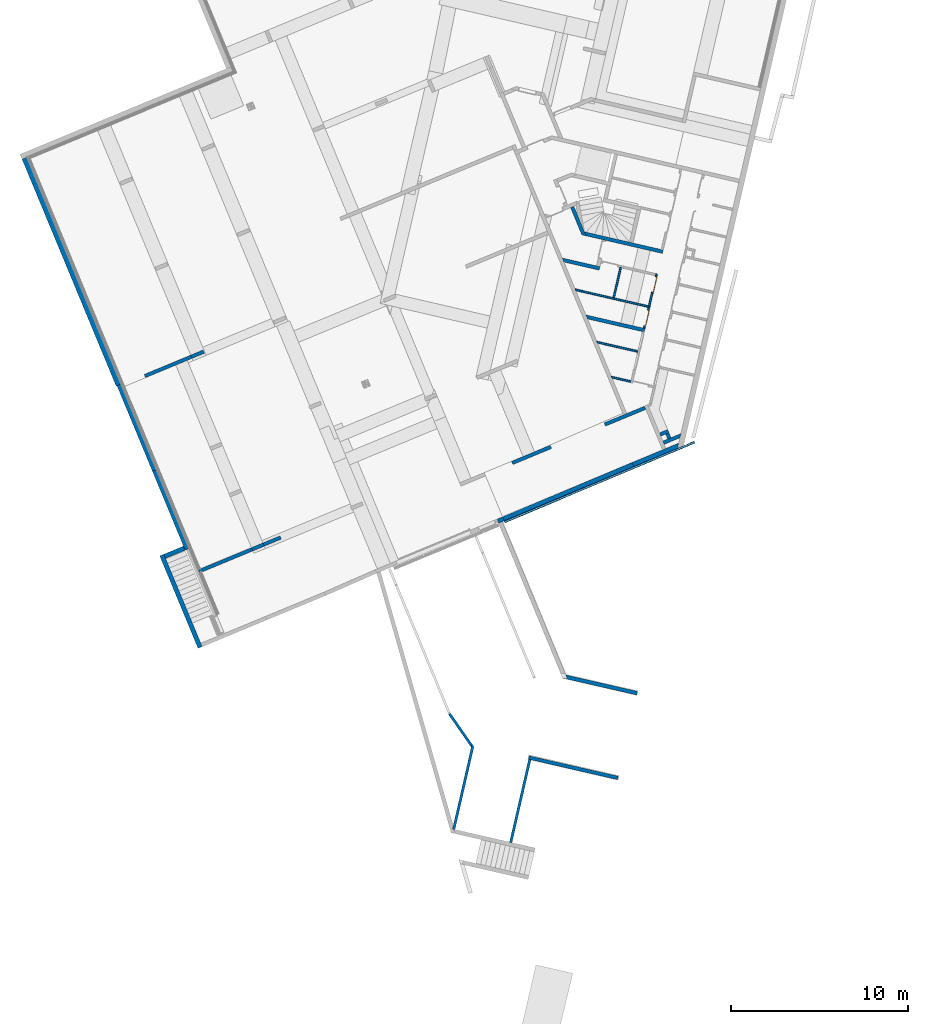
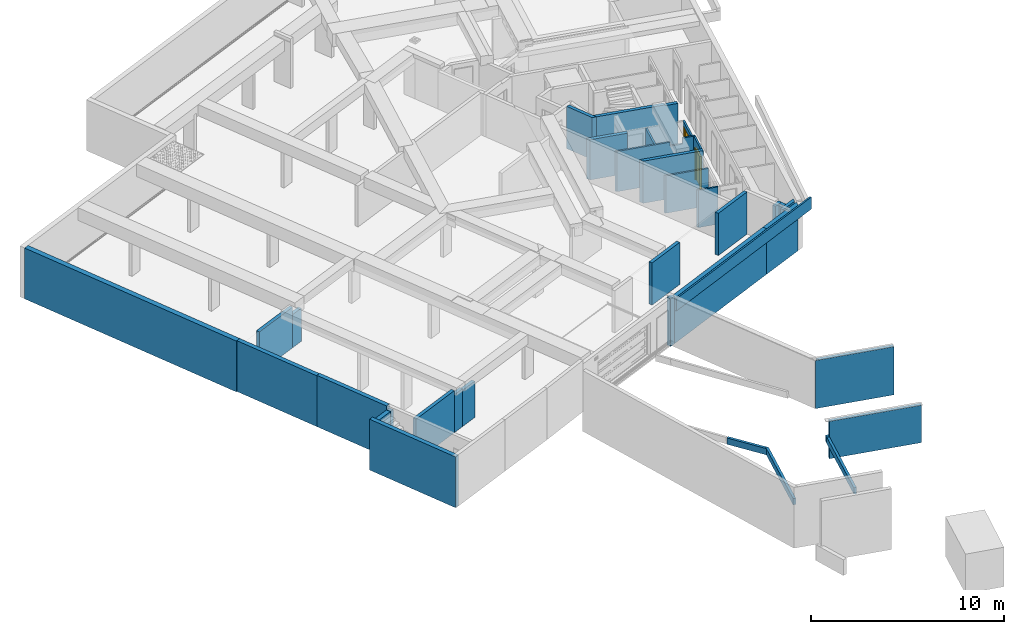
# One storey, part 2 of 20: 34 walls, 2 doors, 2 openings.
"""IFC2X3 building model written with IfcOpenShell, lengths in metres."""

from ifc_helpers import new_model, entity, si_unit, converted_unit, derived_unit, money_unit, direction, frame, origin_with_axes, place, context, subcontext, project, spatial, faceted_brep, source, transform, mapped, material, material_list, type_object, element, fill, save


model = new_model("IFC2X3")

# Units and contexts
model_context = context("Model", 3, precision=1e-05, world=origin_with_axes(), true_north=direction((0.0, 1.0)))
body_context = subcontext(model_context, "Body", "Model", "MODEL_VIEW")
ifc_project = project(units=[si_unit("LENGTHUNIT", "METRE"), si_unit("AREAUNIT", "SQUARE_METRE"), si_unit("VOLUMEUNIT", "CUBIC_METRE"), converted_unit("PLANEANGLEUNIT", "DEGREE", entity("IfcPlaneAngleMeasure", 0.0174532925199), si_unit("PLANEANGLEUNIT", "RADIAN"), dimensions=[0, 0, 0, 0, 0, 0, 0]), si_unit("SOLIDANGLEUNIT", "STERADIAN"), money_unit("EUR"), converted_unit("TIMEUNIT", "Year", entity("IfcTimeMeasure", 31556926.0), si_unit("TIMEUNIT", "SECOND"), dimensions=[0, 0, 1, 0, 0, 0, 0]), si_unit("MASSUNIT", "GRAM", prefix="KILO"), si_unit("THERMODYNAMICTEMPERATUREUNIT", "DEGREE_CELSIUS"), si_unit("LUMINOUSINTENSITYUNIT", "LUMEN"), si_unit("ENERGYUNIT", "JOULE", prefix="MEGA"), derived_unit("THERMALCONDUCTANCEUNIT", [(si_unit("POWERUNIT", "WATT"), 1), (si_unit("LENGTHUNIT", "METRE"), -1), (si_unit("THERMODYNAMICTEMPERATUREUNIT", "KELVIN"), -1)]), derived_unit("SPECIFICHEATCAPACITYUNIT", [(si_unit("ENERGYUNIT", "JOULE"), 1), (si_unit("MASSUNIT", "GRAM", prefix="KILO"), -1), (si_unit("THERMODYNAMICTEMPERATUREUNIT", "KELVIN"), -1)]), derived_unit("MASSDENSITYUNIT", [(si_unit("MASSUNIT", "GRAM", prefix="KILO"), 1), (si_unit("VOLUMEUNIT", "CUBIC_METRE"), -1)])], contexts=[model_context])

# Site, building, storey
site_placement = place(None, origin_with_axes())
site = spatial("IfcSite", under=ifc_project, at=site_placement, Name="Site", CompositionType="ELEMENT")
building_placement = place(site_placement, origin_with_axes())
building = spatial("IfcBuilding", under=site, at=building_placement, Name="Bâtiment", CompositionType="ELEMENT")
storey_placement = place(building_placement, frame((0.0, 0.0, -2.9), z_axis=(0.0, 0.0, 1.0), x_axis=(1.0, 0.0, 0.0)))
storey = spatial("IfcBuildingStorey", under=building, at=storey_placement, Name="Sous-sol", CompositionType="ELEMENT", Elevation=-2.9)

# Walls
ifc_material_1 = material(Name="Béton")
wall_type_1 = type_object("IfcWallType", Name="Béton 200", PredefinedType="USERDEFINED")
wall_1_placement = place(storey_placement, frame((-4.6499765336, -10.2752518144, 0.0), z_axis=(0.0, 0.0, 1.0), x_axis=(-0.974387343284, 0.224876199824, 0.0)))
element("IfcWall", 1, at=wall_1_placement, inside=storey, type_object=wall_type_1, material=ifc_material_1, Name="M_Ext-007", ObjectType="SOLIDWALL", context=body_context, shape_type="Brep", body=[
    faceted_brep([(4.54976726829, 0.0, 0.0), (4.54976726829, 0.0, 2.67), (0.699999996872, -1.10096642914e-09, 2.67), (0.699999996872, -1.10096642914e-09, 2.62), (0.0, 0.0, 2.62), (3.12709413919e-10, 0.0, 2.37), (3.12709858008e-10, 0.0, 0.0), (4.40699163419, 0.2, 2.67), (4.40699163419, 0.2, 0.0), (0.700101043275, 0.199992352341, 2.67), (0.700101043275, 0.199992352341, 2.62), (0.0, 0.199993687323, 2.62), (2.27683205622e-10, 0.2, 2.37), (2.27683205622e-10, 0.2, 0.0)], [[[0, 1, 2, 3, 4, 5, 6]], [[7, 1, 0, 8]], [[1, 7, 9, 2]], [[9, 10, 3, 2]], [[3, 10, 11, 4]], [[12, 5, 4, 11]], [[12, 13, 6, 5]], [[8, 0, 6, 13]], [[12, 11, 10, 9, 7, 8, 13]]]),
])
wall_2_placement = place(storey_placement, frame((-5.67255689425, -14.7060869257, 0.0), z_axis=(0.0, 0.0, 1.0), x_axis=(-0.974387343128, 0.224876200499, 0.0)))
element("IfcWall", 2, at=wall_2_placement, inside=storey, type_object=wall_type_1, material=ifc_material_1, Name="M_Ext-007", ObjectType="SOLIDWALL", context=body_context, shape_type="Brep", body=[
    faceted_brep([(-1.4657537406e-09, 0.2, 2.37), (-1.23905374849e-09, 0.0, 2.37), (-1.23905197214e-09, 0.0, 2.67), (-1.46575018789e-09, 0.2, 2.67), (-1.23905374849e-09, 0.0, 0.0), (-1.4657537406e-09, 0.2, 0.0), (3.41685330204, 0.0, 0.0), (3.41685330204, 0.0, 2.67), (3.27407766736, 0.2, 2.67), (3.27407766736, 0.2, 0.0)], [[[0, 1, 2, 3]], [[4, 1, 0, 5]], [[4, 6, 7, 2, 1]], [[3, 2, 7, 8]], [[0, 3, 8, 9, 5]], [[4, 5, 9, 6]], [[6, 9, 8, 7]]]),
])
wall_3_placement = place(storey_placement, frame((-5.51181280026, -19.0058905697, 0.0), z_axis=(0.0, 0.0, 1.0), x_axis=(-0.923701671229, -0.383112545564, 0.0)))
element("IfcWall", 3, at=wall_3_placement, inside=storey, type_object=wall_type_1, material=ifc_material_1, Name="M_Ext-007", ObjectType="SOLIDWALL", context=body_context, shape_type="Brep", body=[
    faceted_brep([(0.2, 0.0, 0.0), (0.2, 0.2, 0.0), (2.66188284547, 0.2, 0.0), (2.66188284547, 0.0, 0.0), (0.2, 0.0, 2.67), (0.2, 0.2, 2.67), (2.66188284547, 0.2, 2.67), (2.66188284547, 0.0, 2.67)], [[[0, 1, 2, 3]], [[4, 5, 1, 0]], [[1, 5, 6, 2]], [[7, 3, 2, 6]], [[4, 0, 3, 7]], [[5, 4, 7, 6]]]),
])
wall_4_placement = place(storey_placement, frame((-9.08321217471, -9.25211744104, 0.0), z_axis=(0.0, 0.0, 1.0), x_axis=(-0.383112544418, 0.923701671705, 0.0)))
element("IfcWall", 4, at=wall_4_placement, inside=storey, type_object=wall_type_1, material=ifc_material_1, Name="M_Ext-007", ObjectType="SOLIDWALL", context=body_context, shape_type="Brep", body=[
    faceted_brep([(-0.245733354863, 0.0, 0.0), (-0.102957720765, 0.2, 0.0), (1.55978390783, 0.2, 0.0), (1.55978390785, 0.0, 0.0), (-0.245733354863, 0.0, 2.67), (-0.102957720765, 0.2, 2.67), (1.55978390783, 0.2, 2.67), (1.55978390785, 0.0, 2.67)], [[[0, 1, 2, 3]], [[0, 4, 5, 1]], [[1, 5, 6, 2]], [[6, 7, 3, 2]], [[4, 0, 3, 7]], [[5, 4, 7, 6]]]),
])
wall_5_placement = place(storey_placement, frame((-8.4488058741, -11.3689992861, 0.0), z_axis=(0.0, 0.0, 1.0), x_axis=(-0.974387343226, 0.224876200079, 0.0)))
element("IfcWall", 5, at=wall_5_placement, inside=storey, type_object=wall_type_1, material=ifc_material_1, Name="M_Ext-007", ObjectType="SOLIDWALL", context=body_context, shape_type="Brep", body=[
    faceted_brep([(1.97963020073, -0.2, 0.0), (1.97963020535, -0.199999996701, 2.55), (-0.199999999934, -0.2, 2.55), (-0.199999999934, -0.2, 0.0), (1.83685456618, 0.0, 0.0), (1.83685457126, 3.62999763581e-09, 2.55), (-0.2, 0.0, 2.55), (-0.2, 0.0, 0.0)], [[[0, 1, 2, 3]], [[4, 5, 1, 0]], [[5, 6, 2, 1]], [[3, 2, 6, 7]], [[7, 4, 0, 3]], [[7, 6, 5, 4]]]),
])
wall_6_placement = place(storey_placement, frame((-27.8185272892, -27.1541171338, 0.0), z_axis=(0.0, 0.0, 1.0), x_axis=(-0.923701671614, -0.383112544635, 0.0)))
element("IfcWall", 6, at=wall_6_placement, inside=storey, type_object=wall_type_1, material=ifc_material_1, Name="M_Ext-007", ObjectType="SOLIDWALL", context=body_context, shape_type="Brep", body=[
    faceted_brep([(0.0, -0.1, 0.0), (0.0, 0.1, 0.0), (3.25802808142, 0.1, 0.0), (3.25802808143, -0.1, 0.0), (0.0, -0.1, 2.67), (0.0, 0.1, 2.67), (3.25802808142, 0.1, 2.67), (3.25802808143, -0.1, 2.67)], [[[0, 1, 2, 3]], [[0, 4, 5, 1]], [[1, 5, 6, 2]], [[6, 7, 3, 2]], [[4, 0, 3, 7]], [[5, 4, 7, 6]]]),
])
wall_7_placement = place(storey_placement, frame((-27.1719361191, -26.8859383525, 0.0), z_axis=(0.0, 0.0, 1.0), x_axis=(-0.923701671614, -0.383112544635, 0.0)))
element("IfcWall", 7, at=wall_7_placement, inside=storey, type_object=wall_type_1, material=ifc_material_1, Name="M_Ext-007", ObjectType="SOLIDWALL", context=body_context, shape_type="Brep", body=[
    faceted_brep([(0.699999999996, -0.1, 0.0), (0.0, -0.1, 0.0), (0.0, 0.1, 0.0), (0.699999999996, 0.1, 0.0), (0.699999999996, -0.1, 2.4), (0.0, -0.1, 2.4), (0.0, 0.1, 2.4), (0.699999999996, 0.1, 2.4)], [[[0, 1, 2, 3]], [[4, 5, 1, 0]], [[1, 5, 6, 2]], [[3, 2, 6, 7]], [[7, 4, 0, 3]], [[7, 6, 5, 4]]]),
])
wall_8_placement = place(storey_placement, frame((-30.5931104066, -15.9175783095, 0.0), z_axis=(0.0, 0.0, 1.0), x_axis=(-0.923701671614, -0.383112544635, 0.0)))
element("IfcWall", 8, at=wall_8_placement, inside=storey, type_object=wall_type_1, material=ifc_material_1, Name="M_Ext-007", ObjectType="SOLIDWALL", context=body_context, shape_type="Brep", body=[
    faceted_brep([(0.0, 0.2, 2.1), (0.0, 0.0, 2.1), (0.749999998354, 0.0, 2.1), (0.749999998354, 0.2, 2.1), (0.0, 0.2, 0.0), (0.0, 0.0, 0.0), (0.749999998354, 0.0, 0.0), (0.749999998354, 0.2, 0.0)], [[[0, 1, 2, 3]], [[4, 5, 1, 0]], [[1, 5, 6, 2]], [[7, 3, 2, 6]], [[4, 0, 3, 7]], [[5, 4, 7, 6]]]),
])
wall_9_placement = place(storey_placement, frame((-26.2094649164, -26.4867458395, 0.0), z_axis=(0.0, 0.0, 1.0), x_axis=(-0.923701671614, -0.383112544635, 0.0)))
element("IfcWall", 9, at=wall_9_placement, inside=storey, type_object=wall_type_1, material=ifc_material_1, Name="M_Ext-007", ObjectType="SOLIDWALL", context=body_context, shape_type="Brep", body=[
    faceted_brep([(0.0, -0.1, 0.0), (0.0, 0.1, 0.0), (1.04197191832, 0.1, 0.0), (1.04197191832, -0.1, 0.0), (0.0, -0.1, 2.3), (0.0, 0.1, 2.3), (1.04197191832, 0.1, 2.3), (1.04197191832, -0.1, 2.3)], [[[0, 1, 2, 3]], [[4, 5, 1, 0]], [[1, 5, 6, 2]], [[7, 3, 2, 6]], [[4, 0, 3, 7]], [[5, 4, 7, 6]]]),
])
wall_10_placement = place(storey_placement, frame((-31.2858866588, -16.2049127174, 0.0), z_axis=(0.0, 0.0, 1.0), x_axis=(-0.923701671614, -0.383112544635, 0.0)))
element("IfcWall", 10, at=wall_10_placement, inside=storey, type_object=wall_type_1, material=ifc_material_1, Name="M_Ext-007", ObjectType="SOLIDWALL", context=body_context, shape_type="Brep", body=[
    faceted_brep([(0.0, 0.2, 0.0), (0.0, 0.0, 0.0), (0.0, 0.0, 2.58), (0.0, 0.2000000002, 2.58), (2.83467555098, 0.0, 0.0), (2.83467555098, 0.2, 0.0), (2.83467555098, 0.0, 2.58), (2.83467555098, 0.200000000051, 2.58)], [[[0, 1, 2, 3]], [[4, 1, 0, 5]], [[1, 4, 6, 2]], [[2, 6, 7, 3]], [[5, 0, 3, 7]], [[4, 5, 7, 6]]]),
])
wall_11_placement = place(storey_placement, frame((-10.9700967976, -21.378016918, 0.0), z_axis=(0.0, 0.0, 1.0), x_axis=(-0.923701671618, -0.383112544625, 0.0)))
element("IfcWall", 11, at=wall_11_placement, inside=storey, type_object=wall_type_1, material=ifc_material_1, Name="M_Ext-007", ObjectType="SOLIDWALL", context=body_context, shape_type="Brep", body=[
    faceted_brep([(2.36140857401, -0.1, 0.0), (0.0, -0.1, 0.0), (0.0, 0.1, 0.0), (2.36140857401, 0.1, 0.0), (2.36140857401, -0.1, 2.67), (0.0, -0.1, 2.67), (0.0, 0.1, 2.67), (2.36140857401, 0.1, 2.67)], [[[0, 1, 2, 3]], [[4, 5, 1, 0]], [[1, 5, 6, 2]], [[3, 2, 6, 7]], [[7, 4, 0, 3]], [[7, 6, 5, 4]]]),
])
wall_type_2 = type_object("IfcWallType", Name="Béton 250", PredefinedType="USERDEFINED")
wall_12_placement = place(storey_placement, frame((-6.40545140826, -22.2616648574, -0.35), z_axis=(0.0, 0.0, 1.0), x_axis=(0.923701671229, 0.383112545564, 0.0)))
element("IfcWall", 12, at=wall_12_placement, inside=storey, type_object=wall_type_2, material=ifc_material_1, Name="Voile projeté béton par passes alternées", ObjectType="SOLIDWALL", context=body_context, shape_type="Brep", body=[
    faceted_brep([(2.85671597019, 0.0, 0.0), (2.85671597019, 0.0, 0.2), (2.85671597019, 0.0, 0.35), (2.85671597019, 0.0, 2.88), (2.67824642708, -0.25, 2.88), (2.67824642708, -0.25, 0.0), (0.0, 0.0, 0.0), (0.0, 0.0, 0.2), (1.14627659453e-05, -0.00539176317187, 0.2), (1.14627659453e-05, -0.00539176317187, 0.35), (0.0, 0.0, 0.35), (0.0, 0.0, 2.88), (0.000531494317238, -0.25, 2.88), (0.000531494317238, -0.25, 0.0)], [[[0, 1, 2, 3, 4, 5]], [[6, 7, 1, 0]], [[1, 8, 9, 2]], [[3, 2, 10, 11]], [[4, 3, 11, 12]], [[5, 4, 12, 13]], [[0, 5, 13, 6]], [[9, 8, 7, 6, 13, 12, 11, 10]], [[8, 1, 7]], [[9, 10, 2]]]),
])
wall_13_placement = place(storey_placement, frame((-31.4603143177, -26.8777057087, -0.35), z_axis=(0.0, 0.0, 1.0), x_axis=(-0.383112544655, 0.923701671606, 0.0)))
element("IfcWall", 13, at=wall_13_placement, inside=storey, type_object=wall_type_2, material=ifc_material_1, Name="Voile projeté béton par passes alternées", ObjectType="SOLIDWALL", context=body_context, shape_type="Brep", body=[
    faceted_brep([(4.55482538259, 0.0, 0.0), (4.55482538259, 0.0, 3.02), (0.0, 0.0, 3.02), (0.0, 0.0, 3.0), (-0.25, 0.0, 3.0), (-0.25, 0.0, 0.1), (-0.25, 0.0, 0.0), (4.55482538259, 6.24238754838e-05, 3.25), (4.55482538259, 6.24238754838e-05, 3.02), (4.55482538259, 0.25, 0.0), (4.55482538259, 0.25, 3.25), (0.0, 0.000118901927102, 3.02), (0.0, 0.000118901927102, 3.25), (0.0, 0.25, 3.25), (0.0, 0.25, 3.0), (-0.250000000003, 0.25, 3.0), (-0.250000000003, 0.25, 0.1), (-0.250000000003, 0.25, 0.0)], [[[0, 1, 2, 3, 4, 5, 6]], [[7, 8, 1, 0, 9, 10]], [[8, 11, 2, 1]], [[2, 11, 12, 13, 14, 3]], [[4, 3, 14, 15]], [[5, 4, 15, 16]], [[5, 16, 17, 6]], [[17, 9, 0, 6]], [[8, 7, 12, 11]], [[13, 10, 9, 17, 16, 15, 14]], [[13, 12, 7, 10]]]),
])
wall_14_placement = place(storey_placement, frame((-33.0306071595, -27.5289970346, -0.35), z_axis=(0.0, 0.0, 1.0), x_axis=(0.923701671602, 0.383112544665, 0.0)))
element("IfcWall", 14, at=wall_14_placement, inside=storey, type_object=wall_type_2, material=ifc_material_1, Name="Voile projeté béton par passes alternées", ObjectType="SOLIDWALL", context=body_context, shape_type="Brep", body=[
    faceted_brep([(0.25, -0.25, 0.0), (1.45000000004, -0.25, 0.0), (1.45000000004, -0.25, 3.0), (0.25, -0.25, 3.0), (0.25, 0.0, 0.0), (1.45000000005, 0.0, 0.0), (1.45000000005, 0.0, 3.0), (0.25, 0.0, 3.0)], [[[0, 1, 2, 3]], [[4, 5, 1, 0]], [[2, 1, 5, 6]], [[3, 2, 6, 7]], [[4, 0, 3, 7]], [[6, 5, 4, 7]]]),
])
wall_15_placement = place(storey_placement, frame((-14.0007638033, -25.4497979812, -0.35), z_axis=(0.0, 0.0, 1.0), x_axis=(0.922064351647, 0.387036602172, 0.0)))
element("IfcWall", 15, at=wall_15_placement, inside=storey, type_object=wall_type_2, material=ifc_material_1, Name="Voile projeté béton par passes alternées", ObjectType="SOLIDWALL", context=body_context, shape_type="Brep", body=[
    faceted_brep([(0.335749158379, -0.25, 3.02), (0.335749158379, 0.0, 3.02), (-9.6856567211e-10, 0.0, 3.02), (-0.0010629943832, -0.249999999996, 3.02), (0.335749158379, -0.25, 0.0), (0.335749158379, 0.0, 0.0), (0.0, 0.0, 0.0), (0.0, 0.0, 0.1), (-0.00106299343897, -0.25, 0.1), (0.0, -0.25, 0.1), (0.0, -0.25, 0.0)], [[[0, 1, 2, 3]], [[0, 4, 5, 1]], [[5, 6, 7, 2, 1]], [[2, 7, 8, 3]], [[4, 0, 3, 8, 9, 10]], [[6, 5, 4, 10]], [[9, 7, 6, 10]], [[7, 9, 8]]]),
])
wall_16_placement = place(storey_placement, frame((-33.0306071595, -27.5289970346, -0.35), z_axis=(0.0, 0.0, 1.0), x_axis=(0.383112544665, -0.923701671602, 0.0)))
element("IfcWall", 16, at=wall_16_placement, inside=storey, type_object=wall_type_2, material=ifc_material_1, Name="Voile projeté béton par passes alternées", ObjectType="SOLIDWALL", context=body_context, shape_type="Brep", body=[
    faceted_brep([(5.63372761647, 0.25, 0.0), (0.0, 0.25, 0.0), (0.0, 0.25, 3.0), (0.0, 0.25, 3.22), (5.63372761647, 0.25, 3.22), (5.63372761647, 0.0, 0.0), (0.0, 0.0, 0.0), (0.0, 0.0, 3.0), (0.0, 0.0, 3.22), (5.63372761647, 0.0, 3.22)], [[[0, 1, 2, 3, 4]], [[5, 6, 1, 0]], [[6, 7, 2, 1]], [[3, 2, 7, 8]], [[4, 3, 8, 9]], [[0, 4, 9, 5]], [[8, 7, 6, 5, 9]]]),
])
wall_17_placement = place(storey_placement, frame((-33.2053250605, -22.6704058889, -0.35), z_axis=(0.0, 0.0, 1.0), x_axis=(-0.383112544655, 0.923701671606, 0.0)))
element("IfcWall", 17, at=wall_17_placement, inside=storey, type_object=wall_type_2, material=ifc_material_1, Name="Voile projeté béton par passes alternées", ObjectType="SOLIDWALL", context=body_context, shape_type="Brep", body=[
    faceted_brep([(5.23682592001, 0.0, 0.0), (0.0, 0.0, 0.0), (0.0, 0.25, 0.0), (5.23682592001, 0.25, 0.0), (5.23682592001, 0.0, 3.22), (0.0, 0.0, 3.22), (0.0, 0.25, 3.22), (5.23682592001, 0.25, 3.22)], [[[0, 1, 2, 3]], [[4, 5, 1, 0]], [[1, 5, 6, 2]], [[3, 2, 6, 7]], [[7, 4, 0, 3]], [[7, 6, 5, 4]]]),
])
wall_18_placement = place(storey_placement, frame((-13.6911814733, -25.3198507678, -0.35), z_axis=(0.0, 0.0, 1.0), x_axis=(0.922064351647, 0.387036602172, 0.0)))
element("IfcWall", 18, at=wall_18_placement, inside=storey, type_object=wall_type_2, material=ifc_material_1, Name="Voile projeté béton par passes alternées", ObjectType="SOLIDWALL", context=body_context, shape_type="Brep", body=[
    faceted_brep([(7.90154185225, 0.0, 0.0), (7.90154185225, 0.0, 0.2), (7.90153038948, -0.00539176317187, 0.2), (7.90153038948, -0.00539176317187, 0.35), (7.90154185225, 0.0, 0.35), (7.90154185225, 0.0, 2.88), (7.90101035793, -0.25, 2.88), (7.90101035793, -0.25, 0.0), (5.62127938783, 0.0, 0.35), (5.62127938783, 0.0, 0.2), (0.0, 0.0, 0.0), (0.0, 0.0, 2.88), (0.0, -0.25, 2.88), (0.0, -0.25, 0.0)], [[[0, 1, 2, 3, 4, 5, 6, 7]], [[8, 9, 1, 0, 10, 11, 5, 4]], [[9, 2, 1]], [[8, 3, 2, 9]], [[8, 4, 3]], [[11, 12, 6, 5]], [[12, 13, 7, 6]], [[13, 10, 0, 7]], [[11, 10, 13, 12]]]),
])

# Wall, opening, door
ifc_material_2 = material(Name="Parpaing 10cm")
wall_type_3 = type_object("IfcWallType", Name="Parpaing 10cm 100", PredefinedType="USERDEFINED")
wall_19_placement = place(storey_placement, frame((-5.40270545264, -13.536822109, 0.0), z_axis=(0.0, 0.0, 1.0), x_axis=(-0.224876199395, -0.974387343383, 0.0)))
wall_19 = element("IfcWall", 19, at=wall_19_placement, inside=storey, type_object=wall_type_3, material=ifc_material_2, Name="Parpaing 10x50x20", ObjectType="PARTITIONING", context=body_context, shape_type="Brep", body=[
    faceted_brep([(1.06000000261, 0.0, 0.0), (1.06000000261, 0.0, 2.085), (0.140000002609, 0.0, 2.085), (0.140000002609, 0.0, 0.0), (0.0, 0.0, 0.0), (0.0, 0.0, 2.67), (1.20000000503, 0.0, 2.67), (1.20000000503, 0.0, 0.0), (1.06000000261, -0.1, 0.0), (1.06000000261, -0.1, 2.085), (0.140000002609, -0.1, 2.085), (0.140000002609, -0.1, 0.0), (0.0, -0.1, 0.0), (0.0, -0.1, 2.67), (1.20000000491, -0.1, 2.67), (1.20000000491, -0.1, 0.0)], [[[0, 1, 2, 3, 4, 5, 6, 7]], [[1, 0, 8, 9]], [[2, 1, 9, 10]], [[3, 2, 10, 11]], [[3, 11, 12, 4]], [[13, 5, 4, 12]], [[13, 14, 6, 5]], [[6, 14, 15, 7]], [[8, 0, 7, 15]], [[9, 8, 15, 14, 13, 12, 11, 10]]]),
])
opening_1_placement = place(wall_19_placement, frame((0.600000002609, 0.0, 0.0), z_axis=(0.0, 0.0, 1.0), x_axis=(1.0, 0.0, 0.0)))
opening_1 = element("IfcOpeningElement", 20, at=opening_1_placement, cuts=wall_19, Name="Porte 83x204 bois bâti métal", context=body_context, shape_type="Brep", body=[
    faceted_brep([(0.46, -0.1, 0.0), (-0.46, -0.1, 0.0), (-0.46, 0.1, 0.0), (0.46, 0.1, 0.0), (0.46, -0.1, 2.085), (-0.46, -0.1, 2.085), (-0.46, 0.1, 2.085), (0.46, 0.1, 2.085)], [[[0, 1, 2, 3]], [[0, 4, 5, 1]], [[1, 5, 6, 2]], [[3, 2, 6, 7]], [[4, 0, 3, 7]], [[5, 4, 7, 6]]]),
])
door_style = type_object("IfcDoorStyle", Name="Porte int générique 2019", ConstructionType="NOTDEFINED", OperationType="SINGLE_SWING_RIGHT", ParameterTakesPrecedence=False, Sizeable=False)
shared_shape = source(origin_with_axes(), body_context, "Body", "Brep", [
    faceted_brep([(0.46, 0.0, 0.0), (0.43, 0.0, 0.0), (0.43, 0.0, 2.055), (-0.43, 0.0, 2.055), (-0.43, 0.0, 0.0), (-0.46, 0.0, 0.0), (-0.46, 0.0, 2.085), (0.46, 0.0, 2.085), (0.46, -0.1, 0.0), (0.43, -0.1, 0.0), (0.43, -0.045, 0.0), (0.415, -0.045, 0.0), (0.415, -0.015, 0.0), (0.43, -0.015, 0.0), (0.43, -0.015, 2.055), (-0.43, -0.015, 2.055), (-0.43, -0.015, 0.0), (-0.415, -0.015, 0.0), (-0.415, -0.045, 0.0), (-0.43, -0.045, 0.0), (-0.43, -0.1, 0.0), (-0.46, -0.1, 0.0), (-0.46, -0.1, 2.085), (0.46, -0.1, 2.085), (-0.43, -0.1, 2.055), (0.43, -0.1, 2.055), (0.43, -0.045, 2.055), (-0.43, -0.045, 2.055), (-0.415, -0.045, 2.04), (0.415, -0.045, 2.04), (0.415, -0.015, 2.04), (-0.415, -0.015, 2.04)], [[[0, 1, 2, 3, 4, 5, 6, 7]], [[0, 8, 9, 10, 11, 12, 13, 1]], [[1, 13, 14, 2]], [[2, 14, 15, 3]], [[3, 15, 16, 4]], [[5, 4, 16, 17, 18, 19, 20, 21]], [[22, 6, 5, 21]], [[23, 7, 6, 22]], [[8, 0, 7, 23]], [[9, 8, 23, 22, 21, 20, 24, 25]], [[10, 9, 25, 26]], [[11, 10, 26, 27, 19, 18, 28, 29]], [[12, 11, 29, 30]], [[13, 12, 30, 31, 17, 16, 15, 14]], [[31, 28, 18, 17]], [[27, 24, 20, 19]], [[26, 25, 24, 27]], [[30, 29, 28, 31]]]),
    faceted_brep([(0.43, 0.025, 0.0), (0.43, -0.015, 0.0), (-0.43, -0.015, 0.0), (-0.43, 0.025, 0.0), (0.43, 0.025, 2.055), (0.43, -0.015, 2.055), (-0.43, -0.015, 2.055), (-0.43, 0.025, 2.055)], [[[0, 1, 2, 3]], [[4, 5, 1, 0]], [[1, 5, 6, 2]], [[3, 2, 6, 7]], [[0, 3, 7, 4]], [[7, 6, 5, 4]]]),
])
door_1_placement = place(opening_1_placement, frame((-0.415, 0.0, 0.0), z_axis=(0.0, 0.0, 1.0), x_axis=(1.0, 0.0, 0.0)))
door_1 = element("IfcDoor", 21, at=door_1_placement, inside=storey, type_object=door_style, Name="Porte 83x204 bois bâti métal", ObjectType="DOOR", OverallHeight=2.04, OverallWidth=0.83, context=body_context, shape_type="MappedRepresentation", body=[
    mapped(shared_shape, transform((0.415, 0.0, 0.0))),
])
fill(opening_1, door_1)

# Wall
wall_20_placement = place(storey_placement, frame((-5.40270545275, -13.536822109, 0.0), z_axis=(0.0, 0.0, 1.0), x_axis=(-0.974387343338, 0.224876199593, 0.0)))
element("IfcWall", 22, at=wall_20_placement, inside=storey, type_object=wall_type_3, material=ifc_material_2, Name="Parpaing 10x50x20", ObjectType="PARTITIONING", context=body_context, shape_type="Brep", body=[
    faceted_brep([(1.40098964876, -0.1, 2.55), (1.40098964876, -0.0999999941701, 2.3), (0.70098964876, -0.0999999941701, 2.3), (0.70098964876, -0.1, 2.67), (0.0, -0.1, 2.67), (0.0, -0.1, 0.0), (4.34489492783, -0.1, 0.0), (4.34489493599, -0.0999999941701, 2.55), (1.40098964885, 0.0, 2.3), (1.40098964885, 0.0, 2.55), (0.700989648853, 0.0, 2.3), (0.700989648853, 0.0, 2.67), (-1.13433262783e-10, 0.0, 2.67), (-1.13433262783e-10, 0.0, 0.0), (4.27350711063, 0.0, 0.0), (4.27350711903, 5.99564664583e-09, 2.55)], [[[0, 1, 2, 3, 4, 5, 6, 7]], [[8, 1, 0, 9]], [[10, 2, 1, 8]], [[10, 11, 3, 2]], [[4, 3, 11, 12]], [[12, 13, 5, 4]], [[5, 13, 14, 6]], [[6, 14, 15, 7]], [[15, 9, 0, 7]], [[10, 8, 9, 15, 14, 13, 12, 11]]]),
])

# Wall, opening, door
wall_21_placement = place(storey_placement, frame((-4.96480321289, -11.6393940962, 0.0), z_axis=(0.0, 0.0, 1.0), x_axis=(-0.224876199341, -0.974387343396, 0.0)))
wall_21 = element("IfcWall", 23, at=wall_21_placement, inside=storey, type_object=wall_type_3, material=ifc_material_2, Name="Parpaing 10x50x20", ObjectType="PARTITIONING", context=body_context, shape_type="Brep", body=[
    faceted_brep([(1.06435460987, 0.0, 0.0), (1.06435460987, 0.0, 2.085), (0.144354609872, 0.0, 2.085), (0.144354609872, 0.0, 0.0), (0.0, 0.0, 0.0), (0.0, 0.0, 2.37), (1.84730363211, 0.0, 2.37), (1.84730363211, 0.0, 0.0), (1.06435460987, -0.1, 0.0), (1.06435460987, -0.1, 2.085), (0.144354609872, -0.1, 2.085), (0.144354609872, -0.1, 0.0), (0.0, -0.1, 0.0), (0.0, -0.1, 2.37), (1.84730363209, -0.1, 2.37), (1.84730363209, -0.1, 0.0)], [[[0, 1, 2, 3, 4, 5, 6, 7]], [[1, 0, 8, 9]], [[2, 1, 9, 10]], [[3, 2, 10, 11]], [[3, 11, 12, 4]], [[5, 4, 12, 13]], [[13, 14, 6, 5]], [[15, 7, 6, 14]], [[8, 0, 7, 15]], [[9, 8, 15, 14, 13, 12, 11, 10]]]),
])
opening_2_placement = place(wall_21_placement, frame((0.604354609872, 0.0, 0.0), z_axis=(0.0, 0.0, 1.0), x_axis=(1.0, 0.0, 0.0)))
opening_2 = element("IfcOpeningElement", 24, at=opening_2_placement, cuts=wall_21, Name="Porte 83x204 bois bâti métal", context=body_context, shape_type="Brep", body=[
    faceted_brep([(0.46, -0.1, 0.0), (-0.46, -0.1, 0.0), (-0.46, 0.1, 0.0), (0.46, 0.1, 0.0), (0.46, -0.1, 2.085), (-0.46, -0.1, 2.085), (-0.46, 0.1, 2.085), (0.46, 0.1, 2.085)], [[[0, 1, 2, 3]], [[0, 4, 5, 1]], [[1, 5, 6, 2]], [[3, 2, 6, 7]], [[4, 0, 3, 7]], [[5, 4, 7, 6]]]),
])
door_2_placement = place(opening_2_placement, frame((-0.415, 0.0, 0.0), z_axis=(0.0, 0.0, 1.0), x_axis=(1.0, 0.0, 0.0)))
door_2 = element("IfcDoor", 25, at=door_2_placement, inside=storey, type_object=door_style, Name="Porte 83x204 bois bâti métal", ObjectType="DOOR", OverallHeight=2.04, OverallWidth=0.83, context=body_context, shape_type="MappedRepresentation", body=[
    mapped(shared_shape, transform((0.415, 0.0, 0.0))),
])
fill(opening_2, door_2)

# Walls
wall_22_placement = place(storey_placement, frame((-7.0876543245, -11.2520956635, 0.0), z_axis=(0.0, 0.0, 1.0), x_axis=(-0.224876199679, -0.974387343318, 0.0)))
element("IfcWall", 26, at=wall_22_placement, inside=storey, type_object=wall_type_3, material=ifc_material_2, Name="Parpaing 10x50x20", ObjectType="PARTITIONING", context=body_context, shape_type="Brep", body=[
    faceted_brep([(0.0, 0.1, 0.0), (1.74730363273, 0.1, 0.0), (1.74730363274, 0.0, 0.0), (0.0, 0.0, 0.0), (0.0, 0.1, 2.37), (1.74730363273, 0.1, 2.37), (1.74730363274, 0.0, 2.37), (0.0, 0.0, 2.37)], [[[0, 1, 2, 3]], [[4, 5, 1, 0]], [[6, 2, 1, 5]], [[3, 2, 6, 7]], [[7, 4, 0, 3]], [[7, 6, 5, 4]]]),
])
wall_23_placement = place(storey_placement, frame((-5.96573428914, -15.9764229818, 0.0), z_axis=(0.0, 0.0, 1.0), x_axis=(-0.974387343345, 0.22487619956, 0.0)))
element("IfcWall", 27, at=wall_23_placement, inside=storey, type_object=wall_type_3, material=ifc_material_2, Name="Parpaing 10x50x20", ObjectType="PARTITIONING", context=body_context, shape_type="Brep", body=[
    faceted_brep([(0.10000000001, 0.1, 0.0), (2.41476252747, 0.1, 0.0), (2.48615034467, 0.0, 0.0), (0.100000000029, 0.0, 0.0), (0.10000000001, 0.1, 2.37), (2.41476252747, 0.1, 2.37), (2.48615034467, 0.0, 2.37), (0.100000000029, 0.0, 2.37)], [[[0, 1, 2, 3]], [[4, 5, 1, 0]], [[6, 2, 1, 5]], [[3, 2, 6, 7]], [[7, 4, 0, 3]], [[7, 6, 5, 4]]]),
])
wall_24_placement = place(storey_placement, frame((-6.45422562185, -17.6483641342, 0.0), z_axis=(0.0, 0.0, 1.0), x_axis=(-0.974387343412, 0.224876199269, 0.0)))
element("IfcWall", 28, at=wall_24_placement, inside=storey, type_object=wall_type_3, material=ifc_material_2, Name="Parpaing 10x50x20", ObjectType="PARTITIONING", context=body_context, shape_type="Brep", body=[
    faceted_brep([(0.0, 0.1, 0.0), (1.07335096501, 0.1, 0.0), (1.14473878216, 0.0, 0.0), (0.0, 0.0, 0.0), (0.0, 0.1, 2.37), (1.07335096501, 0.1, 2.37), (1.14473878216, 0.0, 2.37), (0.0, 0.0, 2.37)], [[[0, 1, 2, 3]], [[4, 5, 1, 0]], [[6, 2, 1, 5]], [[3, 2, 6, 7]], [[7, 4, 0, 3]], [[7, 6, 5, 4]]]),
])
wall_type_4 = type_object("IfcWallType", Name="Béton 300", PredefinedType="USERDEFINED")
wall_25_placement = place(storey_placement, frame((-35.2116187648, -17.8331410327, -0.35), z_axis=(0.0, 0.0, 1.0), x_axis=(-0.383112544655, 0.923701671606, 0.0)))
element("IfcWall", 29, at=wall_25_placement, inside=storey, type_object=wall_type_4, material=ifc_material_1, Name="Voile projeté béton par passes alternées", ObjectType="SOLIDWALL", context=body_context, shape_type="Brep", body=[
    faceted_brep([(13.8488339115, 0.3, 0.0), (13.8488339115, 0.0, 0.0), (0.0, 0.0, 0.0), (0.0, 0.3, 0.0), (13.8488339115, 0.3, 3.22), (13.8488339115, 0.0, 3.22), (0.0, 0.0, 3.22), (0.0, 0.3, 3.22)], [[[0, 1, 2, 3]], [[1, 0, 4, 5]], [[1, 5, 6, 2]], [[7, 3, 2, 6]], [[4, 0, 3, 7]], [[5, 4, 7, 6]]]),
])
ifc_material_3 = material(Name="Finition ext - Crépis")
ifc_material_list = material_list([ifc_material_1, ifc_material_3])
wall_type_5 = type_object("IfcWallType", Name="1 - Mur Extérieur Béton 20+ ravalement 1 face 215", PredefinedType="USERDEFINED")
wall_26_placement = place(storey_placement, frame((-10.2861261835, -34.4059572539, -0.25), z_axis=(0.0, 0.0, 1.0), x_axis=(0.974623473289, -0.22385058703, 0.0)))
element("IfcWall", 30, at=wall_26_placement, inside=storey, type_object=wall_type_5, material=ifc_material_list, Name="Mur béton 20cm", ObjectType="SOLIDWALL", context=body_context, shape_type="Brep", body=[
    faceted_brep([(4.27471600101, 0.2, 0.0), (4.27471600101, 0.0, 0.0), (0.245549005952, 0.0, 0.0), (0.103090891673, 0.2, 0.0), (4.27471600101, 0.2, 3.05), (4.27471600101, 0.0, 3.05), (0.245549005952, 0.0, 3.05), (0.103090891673, 0.2, 3.05)], [[[0, 1, 2, 3]], [[0, 4, 5, 1]], [[1, 5, 6, 2]], [[3, 2, 6, 7]], [[4, 0, 3, 7]], [[5, 4, 7, 6]]]),
    faceted_brep([(4.27471600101, 0.0, 0.0), (4.27471600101, -0.015, 0.0), (0.0106843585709, -0.015, 0.0), (0.0, 0.0, 0.0), (4.27471600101, 0.0, 3.05), (4.27471600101, -0.015, 3.05), (0.0106843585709, -0.015, 3.05), (0.0, 0.0, 3.05)], [[[0, 1, 2, 3]], [[0, 4, 5, 1]], [[1, 5, 6, 2]], [[3, 2, 6, 7]], [[4, 0, 3, 7]], [[5, 4, 7, 6]]]),
])
wall_type_6 = type_object("IfcWallType", Name="Béton 150", PredefinedType="STANDARD")
wall_27_placement = place(storey_placement, frame((-12.0469744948, -38.8327613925, 1.0), z_axis=(0.0, 0.0, 1.0), x_axis=(-0.22385058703, -0.974623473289, 0.0)))
element("IfcWall", 31, at=wall_27_placement, inside=storey, type_object=wall_type_6, material=ifc_material_1, Name="Mur béton 20cm", ObjectType="STANDARD", context=body_context, shape_type="Brep", body=[
    faceted_brep([(5.0, -0.15, 0.4), (5.0, 0.0, 0.4), (0.2, 0.0, 0.4), (0.2, -0.15, 0.4), (5.0, -0.15, 0.0), (5.0, 0.0, 0.0), (0.2, 0.0, 0.0), (0.2, -0.15, 0.0)], [[[0, 1, 2, 3]], [[1, 0, 4, 5]], [[1, 5, 6, 2]], [[7, 3, 2, 6]], [[4, 0, 3, 7]], [[5, 4, 7, 6]]]),
])
wall_28_placement = place(storey_placement, frame((-15.3080020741, -38.28897915, 1.0), z_axis=(0.0, 0.0, 1.0), x_axis=(-0.22385058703, -0.974623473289, 0.0)))
element("IfcWall", 32, at=wall_28_placement, inside=storey, type_object=wall_type_6, material=ifc_material_1, Name="Mur béton 20cm", ObjectType="STANDARD", context=body_context, shape_type="Brep", body=[
    faceted_brep([(-0.136102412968, -0.15, 0.4), (4.8, -0.15, 0.4), (4.8, 0.0, 0.4), (0.0, 0.0, 0.4), (-0.136102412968, -0.15, 0.0), (4.8, -0.15, 0.0), (4.8, 0.0, 0.0), (0.0, 0.0, 0.0)], [[[0, 1, 2, 3]], [[4, 5, 1, 0]], [[2, 1, 5, 6]], [[3, 2, 6, 7]], [[4, 0, 3, 7]], [[7, 6, 5, 4]]]),
])
wall_29_placement = place(storey_placement, frame((-16.6356651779, -36.3819691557, 1.0), z_axis=(0.0, 0.0, 1.0), x_axis=(0.571368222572, -0.820693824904, 0.0)))
element("IfcWall", 33, at=wall_29_placement, inside=storey, type_object=wall_type_6, material=ifc_material_1, Name="Mur béton 20cm", ObjectType="STANDARD", context=body_context, shape_type="Brep", body=[
    faceted_brep([(2.25721475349, -0.15, 0.4), (2.12111234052, 0.0, 0.4), (0.0, 0.0, 0.4), (0.0, -0.15, 0.4), (2.25721475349, -0.15, 0.0), (2.12111234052, 0.0, 0.0), (0.0, 0.0, 0.0), (0.0, -0.15, 0.0)], [[[0, 1, 2, 3]], [[1, 0, 4, 5]], [[1, 5, 6, 2]], [[7, 3, 2, 6]], [[4, 0, 3, 7]], [[5, 4, 7, 6]]]),
])
wall_type_7 = type_object("IfcWallType", Name="Béton 200", PredefinedType="STANDARD")
wall_30_placement = place(storey_placement, frame((-12.0469744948, -38.8327613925, 0.0), z_axis=(0.0, 0.0, 1.0), x_axis=(0.974623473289, -0.22385058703, 0.0)))
element("IfcWall", 34, at=wall_30_placement, inside=storey, type_object=wall_type_7, material=ifc_material_1, Name="Mur béton 20cm", ObjectType="STANDARD", context=body_context, shape_type="Brep", body=[
    faceted_brep([(0.0, 0.0, 1.0), (-0.15, 0.0, 1.0), (-0.15, 0.0, 1.4), (0.0, 0.0, 1.4), (0.0, 0.0, 2.37), (4.99993739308, 0.0, 2.37), (4.99993739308, 0.0, 0.0), (0.0, 0.0, 0.0), (0.0, -0.2, 1.0), (-0.15, -0.2, 1.0), (-0.15, -0.2, 1.4), (0.0, -0.2, 1.4), (0.0, -0.2, 2.37), (4.99993739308, -0.2, 2.37), (4.99993739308, -0.2, 0.0), (0.0, -0.2, 0.0)], [[[0, 1, 2, 3, 4, 5, 6, 7]], [[8, 9, 1, 0]], [[9, 10, 2, 1]], [[3, 2, 10, 11]], [[11, 12, 4, 3]], [[5, 4, 12, 13]], [[6, 5, 13, 14]], [[14, 15, 7, 6]], [[8, 0, 7, 15]], [[11, 10, 9, 8, 15, 14, 13, 12]]]),
])
ifc_material_4 = material(Name="Parpaing 20cm")
wall_type_8 = type_object("IfcWallType", Name="Parpaing 20cm 200", PredefinedType="STANDARD")
wall_31_placement = place(storey_placement, frame((-4.66321851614, -21.0518897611, 0.0), z_axis=(0.0, 0.0, 1.0), x_axis=(0.923701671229, 0.383112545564, 0.0)))
element("IfcWall", 35, at=wall_31_placement, inside=storey, type_object=wall_type_8, material=ifc_material_4, Name="M_Ext-011", ObjectType="STANDARD", context=body_context, shape_type="Brep", body=[
    faceted_brep([(0.0, -0.2, 2.37), (0.962402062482, -0.2, 2.37), (1.10517769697, 0.0, 2.37), (0.0, 0.0, 2.37), (0.0, -0.2, 0.0), (0.962402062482, -0.2, 0.0), (1.10517769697, 0.0, 0.0), (0.0, 0.0, 0.0)], [[[0, 1, 2, 3]], [[4, 5, 1, 0]], [[6, 2, 1, 5]], [[3, 2, 6, 7]], [[7, 4, 0, 3]], [[7, 6, 5, 4]]]),
])
wall_32_placement = place(storey_placement, frame((-4.39292395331, -20.3984826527, 0.0), z_axis=(0.0, 0.0, 1.0), x_axis=(0.383112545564, -0.923701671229, 0.0)))
element("IfcWall", 36, at=wall_32_placement, inside=storey, type_object=wall_type_8, material=ifc_material_4, Name="M_Ext-012", ObjectType="STANDARD", context=body_context, shape_type="Brep", body=[
    faceted_brep([(0.2, -0.2, 2.37), (0.5, -0.2, 2.37), (0.5, 0.0, 2.37), (0.2, 0.0, 2.37), (0.2, -0.2, 0.0), (0.5, -0.2, 0.0), (0.5, 0.0, 0.0), (0.2, 0.0, 0.0)], [[[0, 1, 2, 3]], [[4, 5, 1, 0]], [[6, 2, 1, 5]], [[3, 2, 6, 7]], [[7, 4, 0, 3]], [[7, 6, 5, 4]]]),
])
wall_33_placement = place(storey_placement, frame((-4.85477478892, -20.5900389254, 0.0), z_axis=(0.0, 0.0, 1.0), x_axis=(0.923701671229, 0.383112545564, 0.0)))
element("IfcWall", 37, at=wall_33_placement, inside=storey, type_object=wall_type_8, material=ifc_material_4, Name="M_Ext-011", ObjectType="STANDARD", context=body_context, shape_type="Brep", body=[
    faceted_brep([(0.0, -0.2, 2.37), (0.5, -0.2, 2.37), (0.5, 0.0, 2.37), (0.0, 0.0, 2.37), (0.0, -0.2, 0.0), (0.5, -0.2, 0.0), (0.5, 0.0, 0.0), (0.0, 0.0, 0.0)], [[[0, 1, 2, 3]], [[4, 5, 1, 0]], [[6, 2, 1, 5]], [[3, 2, 6, 7]], [[7, 4, 0, 3]], [[7, 6, 5, 4]]]),
])
wall_type_9 = type_object("IfcWallType", Name="Béton 100", PredefinedType="USERDEFINED")
wall_34_placement = place(storey_placement, frame((-2.86674151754, -21.1638399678, 1.76256642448), z_axis=(0.0, 0.0, 1.0), x_axis=(-0.922064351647, -0.387036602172, 0.0)))
element("IfcWall", 38, at=wall_34_placement, inside=storey, type_object=wall_type_9, material=ifc_material_1, Name="M_Ext-012", ObjectType="PARTITIONING", context=body_context, shape_type="Brep", body=[
    faceted_brep([(0.0, -0.1, 0.767433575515), (11.5906000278, -0.1, 0.767433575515), (11.5906000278, 0.0, 0.767433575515), (0.0, 0.0, 0.767433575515), (0.0, -0.1, 0.0), (11.5906000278, -0.1, 0.0), (11.5906000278, 0.0, 0.0), (0.0, 0.0, 0.0)], [[[0, 1, 2, 3]], [[4, 5, 1, 0]], [[2, 1, 5, 6]], [[3, 2, 6, 7]], [[4, 0, 3, 7]], [[7, 6, 5, 4]]]),
])

save(model, "model.ifc")
